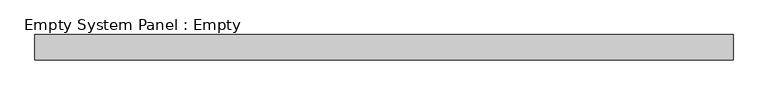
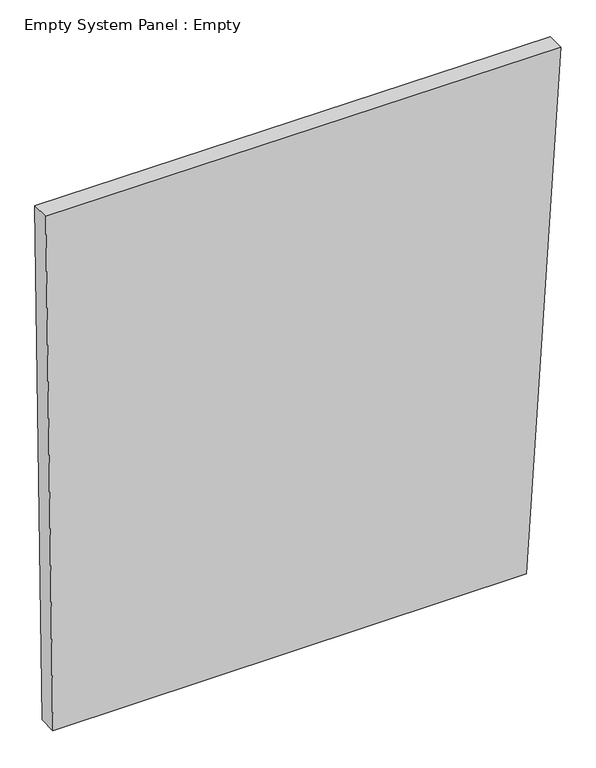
"""IFC4 building model written with IfcOpenShell, lengths in millimetres: plate geometry, Empty System Panel : Empty."""

import ifcopenshell
import ifcopenshell.guid

model = None  # the IFC model being written
_history = None  # IfcOwnerHistory: only IFC2X3 demands one
_inside = {}  # id of a spatial element -> (the spatial element, [elements in it])
_under = {}  # id of a project, library or spatial element -> (it, [spatial elements below it])
_declared = {}  # id of a project -> (the project, [libraries it declares])
_typed = {}  # id of a type object -> (the type object, [elements of that type])
_made_of = {}  # id of a material, layer set ... -> (it, [elements and type objects made of it])


def new_model(schema):
    """Start an empty IFC model of exactly this schema.

    Asked for "IFC4X3", IfcOpenShell would pick the latest addendum, in which some entities
    have other attributes; the version numbers below select the first issue.
    IFC2X3 requires an IfcOwnerHistory on every rooted entity: one is made here for all.
    """
    global model, _history
    if schema == "IFC4X3":
        model = ifcopenshell.file(schema_version=(4, 3, 0, 0))
    else:
        model = ifcopenshell.file(schema=schema)
    _inside.clear()
    _under.clear()
    _declared.clear()
    _typed.clear()
    _made_of.clear()
    _history = None
    if model.schema == "IFC2X3":
        org = make("IfcOrganization", Name="unknown")
        user = make(
            "IfcPersonAndOrganization",
            ThePerson=make("IfcPerson", FamilyName="unknown"),
            TheOrganization=org,
        )
        app = make(
            "IfcApplication",
            ApplicationDeveloper=org,
            Version="unknown",
            ApplicationFullName="unknown",
            ApplicationIdentifier="unknown",
        )
        _history = make(
            "IfcOwnerHistory",
            OwningUser=user,
            OwningApplication=app,
            ChangeAction="ADDED",
            CreationDate=0,
        )
    return model


def make(cls, **values):
    """One entity of the class cls with the attributes given. An attribute that is None is left unset."""
    return model.create_entity(
        cls, **{name: value for name, value in values.items() if value is not None}
    )


def rooted(cls, **values):
    """An entity with a GlobalId (a new one), such as an element, a storey or a relation."""
    return make(cls, GlobalId=ifcopenshell.guid.new(), OwnerHistory=_history, **values)


def si_unit(unit_type, name, prefix=None):
    """IfcSIUnit, for example si_unit("LENGTHUNIT", "METRE", prefix="MILLI")."""
    return make("IfcSIUnit", UnitType=unit_type, Prefix=prefix, Name=name)


def assignment(units):
    """IfcUnitAssignment: the units of a project."""
    return None if units is None else make("IfcUnitAssignment", Units=units)


def point(xyz):
    """IfcCartesianPoint."""
    return None if xyz is None else make("IfcCartesianPoint", Coordinates=xyz)


def direction(xyz):
    """IfcDirection."""
    return None if xyz is None else make("IfcDirection", DirectionRatios=xyz)


def frame(location, z_axis=None, x_axis=None):
    """IfcAxis2Placement3D, a coordinate frame: its origin and axes. An axis left out is left unset."""
    return make(
        "IfcAxis2Placement3D",
        Location=point(location),
        Axis=direction(z_axis),
        RefDirection=direction(x_axis),
    )


def origin():
    """The frame at (0, 0, 0) with its axes left unset."""
    return frame((0.0, 0.0, 0.0))


def place(relative_to, where):
    """IfcLocalPlacement: puts the frame where relative to a parent placement (None: the world)."""
    return make(
        "IfcLocalPlacement", PlacementRelTo=relative_to, RelativePlacement=where
    )


def context(
    kind, dimensions, precision=None, world=None, true_north=None, identifier=None
):
    """IfcGeometricRepresentationContext, for example the 3D "Model" context."""
    return make(
        "IfcGeometricRepresentationContext",
        ContextIdentifier=identifier,
        ContextType=kind,
        CoordinateSpaceDimension=dimensions,
        Precision=precision,
        WorldCoordinateSystem=world,
        TrueNorth=true_north,
    )


def project(units=None, contexts=None):
    """IfcProject with its units and contexts."""
    return rooted(
        "IfcProject",
        Name="project",
        RepresentationContexts=contexts,
        UnitsInContext=assignment(units),
    )


def spatial(cls, under=None, at=None, **own):
    """A site, building, storey or space (cls), placed at a placement, below another one or the project."""
    s = rooted(cls, ObjectPlacement=at, **own)
    if under is not None:
        _under.setdefault(under.id(), (under, []))[1].append(s)
    return s


def polyline(points):
    """IfcPolyline through the points."""
    return make("IfcPolyline", Points=[point(p) for p in points])


def outline(outer, holes=None, kind="AREA"):
    """IfcArbitraryClosedProfileDef: a profile drawn as a closed curve; with holes, ...WithVoids."""
    if holes is None:
        return make("IfcArbitraryClosedProfileDef", ProfileType=kind, OuterCurve=outer)
    return make(
        "IfcArbitraryProfileDefWithVoids",
        ProfileType=kind,
        OuterCurve=outer,
        InnerCurves=holes,
    )


def extrude(swept, where, along, depth):
    """IfcExtrudedAreaSolid: the profile swept, set in the frame where, extruded along a direction by depth."""
    return make(
        "IfcExtrudedAreaSolid",
        SweptArea=swept,
        Position=where,
        ExtrudedDirection=direction(along),
        Depth=depth,
    )


def shape(context_of_items, identifier, shape_type, items):
    """IfcShapeRepresentation: the items that make up one representation, for example the "Body"."""
    return make(
        "IfcShapeRepresentation",
        ContextOfItems=context_of_items,
        RepresentationIdentifier=identifier,
        RepresentationType=shape_type,
        Items=items,
    )


def source(mapping_origin, context_of_items, identifier, shape_type, items):
    """IfcRepresentationMap: a shape defined once, which mapped items show again and again."""
    return make(
        "IfcRepresentationMap",
        MappingOrigin=mapping_origin,
        MappedRepresentation=shape(context_of_items, identifier, shape_type, items),
    )


def transform(
    local_origin,
    x_axis=None,
    y_axis=None,
    z_axis=None,
    scale=None,
    scale2=None,
    scale3=None,
    uniform=True,
):
    """IfcCartesianTransformationOperator3D, or its non-uniform kind. x_axis, y_axis, z_axis: its Axis1, 2, 3."""
    if uniform:
        return make(
            "IfcCartesianTransformationOperator3D",
            Axis1=direction(x_axis),
            Axis2=direction(y_axis),
            LocalOrigin=point(local_origin),
            Scale=scale,
            Axis3=direction(z_axis),
        )
    return make(
        "IfcCartesianTransformationOperator3DnonUniform",
        Axis1=direction(x_axis),
        Axis2=direction(y_axis),
        LocalOrigin=point(local_origin),
        Scale=scale,
        Axis3=direction(z_axis),
        Scale2=scale2,
        Scale3=scale3,
    )


def mapped(mapping_source, mapping_target):
    """IfcMappedItem: shows the shape of a source again, moved by a transform."""
    return make(
        "IfcMappedItem", MappingSource=mapping_source, MappingTarget=mapping_target
    )


def made_of(thing, what):
    """Note that an element or type object is made of a material, layer set ...; save() writes the relation."""
    if what is not None:
        _made_of.setdefault(what.id(), (what, []))[1].append(thing)
    return thing


def element(
    cls,
    number,
    at=None,
    inside=None,
    cuts=None,
    type_object=None,
    material=None,
    context=None,
    identifier="Body",
    shape_type=None,
    held_by="IfcProductDefinitionShape",
    body=None,
    shapes=None,
    **own,
):
    """One element of the class cls, such as IfcWall. Its Tag is "e" and its number.

    at: its placement. inside: the storey or other place that contains it. cuts: it is an
    opening in that element (IfcRelVoidsElement). A single representation is given by context,
    identifier, shape_type and body (its items); several are given by shapes. held_by: the class
    of the entity that holds the representations. save() writes the other relations.
    """
    e = rooted(cls, Tag="e%d" % number, ObjectPlacement=at, **own)
    if body is not None:
        shapes = [shape(context, identifier, shape_type, body)]
    if shapes is not None:
        e.Representation = make(held_by, Representations=shapes)
    if inside is not None:
        _inside.setdefault(inside.id(), (inside, []))[1].append(e)
    if cuts is not None:
        rooted(
            "IfcRelVoidsElement", RelatingBuildingElement=cuts, RelatedOpeningElement=e
        )
    if type_object is not None:
        _typed.setdefault(type_object.id(), (type_object, []))[1].append(e)
    return made_of(e, material)


def aggregate(whole, parts):
    """IfcRelAggregates: a whole, such as a stair, and the parts it consists of."""
    return rooted("IfcRelAggregates", RelatingObject=whole, RelatedObjects=parts)


def save(model, path):
    """Write the relations noted so far, then the file.

    IfcRelAggregates (storeys below a building ...), IfcRelContainedInSpatialStructure (elements
    in a storey), IfcRelDefinesByType, IfcRelAssociatesMaterial and IfcRelDeclares: one each for
    every whole, place, type object, material and project.
    """
    for whole, parts in _under.values():
        aggregate(whole, parts)
    for where, things in _inside.values():
        rooted(
            "IfcRelContainedInSpatialStructure",
            RelatedElements=things,
            RelatingStructure=where,
        )
    for kind, things in _typed.values():
        rooted("IfcRelDefinesByType", RelatedObjects=things, RelatingType=kind)
    for what, things in _made_of.values():
        rooted("IfcRelAssociatesMaterial", RelatedObjects=things, RelatingMaterial=what)
    for by, libraries in _declared.values():
        rooted("IfcRelDeclares", RelatingContext=by, RelatedDefinitions=libraries)
    model.write(path)


def empty_system_panel_empty_50d8e2be(model_context):
    return source(origin(), model_context, "Body", "SweptSolid", [
        extrude(outline(polyline([(0.0, -1353.6170156), (0.0, 1203.7543724), (2939.5066151, 1392.3423145), (2949.1211889, -1392.3423145), (0.0, -1353.6170156)])), frame((0.0, -50.8, 0.0), z_axis=(0.0, 1.0, 0.0), x_axis=(0.0, 0.0, 1.0)), (0.0, 0.0, 1.0), 101.6),
    ])


if __name__ == "__main__":
    model = new_model("IFC4")
    model_context = context("Model", 3, world=origin())
    ifc_project = project(units=[si_unit("LENGTHUNIT", "METRE", prefix="MILLI")], contexts=[model_context])
    site = spatial("IfcSite", under=ifc_project)
    building = spatial("IfcBuilding", under=site)
    placement = place(None, origin())
    empty_system_panel_empty_shape = empty_system_panel_empty_50d8e2be(model_context)
    element("IfcPlate", 1, ObjectType="Empty System Panel : Empty", at=placement, inside=building, context=model_context, shape_type="MappedRepresentation", body=[
        mapped(empty_system_panel_empty_shape, transform((0.0, 0.0, 0.0), x_axis=(1.0, 0.0, 0.0), y_axis=(0.0, 1.0, 0.0), z_axis=(0.0, 0.0, 1.0))),
    ])
    save(model, "model.ifc")
